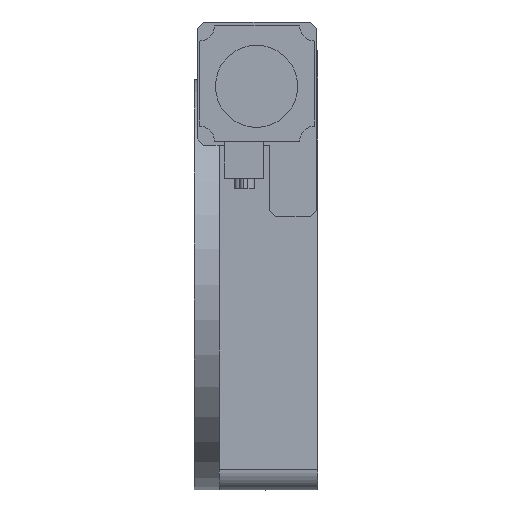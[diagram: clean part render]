
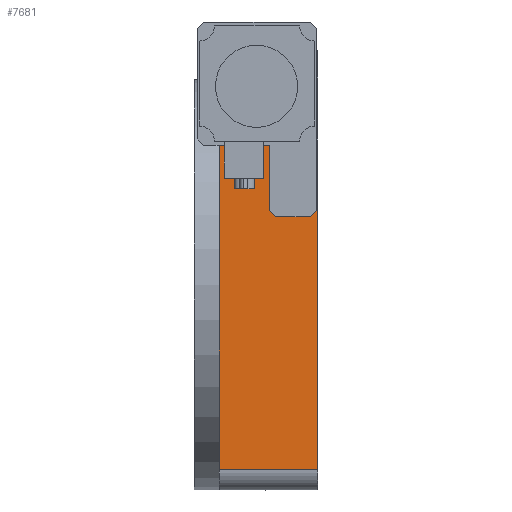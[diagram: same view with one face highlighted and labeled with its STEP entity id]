
A CAD part, left-side view. The second image highlights one B-rep face of the part: STEP entity #7681.
In plain terms, the highlighted planar face has unit normal (-1, 0, 0).
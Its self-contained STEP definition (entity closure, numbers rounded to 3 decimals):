
#114 = EDGE_LOOP ( 'NONE', ( #7237, #7082, #13904, #5619, #4370, #6498, #12378, #8327, #8439, #3772, #5070, #3367, #9591, #11312, #3284 ) ) ;
#169 = LINE ( 'NONE', #3863, #13279 ) ;
#325 = CARTESIAN_POINT ( 'NONE',  ( -100., 23.5, 36. ) ) ;
#559 = DIRECTION ( 'NONE',  ( 0., 0., 1. ) ) ;
#672 = VECTOR ( 'NONE', #3605, 1000. ) ;
#743 = VECTOR ( 'NONE', #14615, 1000. ) ;
#806 = DIRECTION ( 'NONE',  ( 0., 0., -1. ) ) ;
#1129 = VECTOR ( 'NONE', #1602, 1000. ) ;
#1307 = CARTESIAN_POINT ( 'NONE',  ( -100., 48., 68. ) ) ;
#1470 = VECTOR ( 'NONE', #9089, 1000. ) ;
#1560 = CARTESIAN_POINT ( 'NONE',  ( -100., 0., 70. ) ) ;
#1567 = VERTEX_POINT ( 'NONE', #9274 ) ;
#1602 = DIRECTION ( 'NONE',  ( 0., 0., 1. ) ) ;
#1667 = CARTESIAN_POINT ( 'NONE',  ( -100., 3.5, 33. ) ) ;
#1717 = EDGE_CURVE ( 'NONE', #6581, #9800, #9651, .T. ) ;
#1806 = LINE ( 'NONE', #10946, #3146 ) ;
#1825 = EDGE_CURVE ( 'NONE', #9800, #5214, #6987, .T. ) ;
#2266 = DIRECTION ( 'NONE',  ( 0., 0., -1. ) ) ;
#2365 = DIRECTION ( 'NONE',  ( 0., 1., 0. ) ) ;
#2402 = LINE ( 'NONE', #15035, #7326 ) ;
#2599 = VERTEX_POINT ( 'NONE', #3002 ) ;
#3002 = CARTESIAN_POINT ( 'NONE',  ( -100., 0.5, 70. ) ) ;
#3020 = VERTEX_POINT ( 'NONE', #9958 ) ;
#3146 = VECTOR ( 'NONE', #4742, 1000. ) ;
#3175 = CARTESIAN_POINT ( 'NONE',  ( -100., 48., -90. ) ) ;
#3234 = VERTEX_POINT ( 'NONE', #1560 ) ;
#3284 = ORIENTED_EDGE ( 'NONE', *, *, #11812, .F. ) ;
#3367 = ORIENTED_EDGE ( 'NONE', *, *, #6088, .F. ) ;
#3463 = EDGE_CURVE ( 'NONE', #13811, #1567, #1806, .T. ) ;
#3557 = VERTEX_POINT ( 'NONE', #11104 ) ;
#3605 = DIRECTION ( 'NONE',  ( 0., 0., 1. ) ) ;
#3692 = DIRECTION ( 'NONE',  ( 0., -1., 0. ) ) ;
#3772 = ORIENTED_EDGE ( 'NONE', *, *, #4209, .F. ) ;
#3863 = CARTESIAN_POINT ( 'NONE',  ( -100., 48., 68. ) ) ;
#3982 = LINE ( 'NONE', #6130, #743 ) ;
#4209 = EDGE_CURVE ( 'NONE', #1567, #9083, #12791, .T. ) ;
#4370 = ORIENTED_EDGE ( 'NONE', *, *, #1825, .F. ) ;
#4409 = CARTESIAN_POINT ( 'NONE',  ( -100., 48., 33. ) ) ;
#4452 = DIRECTION ( 'NONE',  ( 0., -0.707, 0.707 ) ) ;
#4564 = VERTEX_POINT ( 'NONE', #15638 ) ;
#4638 = CARTESIAN_POINT ( 'NONE',  ( -100., 48., -70. ) ) ;
#4742 = DIRECTION ( 'NONE',  ( 0., -1., 0. ) ) ;
#4769 = CARTESIAN_POINT ( 'NONE',  ( -100., 48., -90. ) ) ;
#4836 = CARTESIAN_POINT ( 'NONE',  ( -100., 48., 70. ) ) ;
#5011 = LINE ( 'NONE', #4836, #15260 ) ;
#5070 = ORIENTED_EDGE ( 'NONE', *, *, #3463, .F. ) ;
#5100 = CARTESIAN_POINT ( 'NONE',  ( -100., 48., 0. ) ) ;
#5214 = VERTEX_POINT ( 'NONE', #8023 ) ;
#5357 = VECTOR ( 'NONE', #3692, 1000. ) ;
#5401 = CARTESIAN_POINT ( 'NONE',  ( -100., 45.5, 51.8 ) ) ;
#5417 = CARTESIAN_POINT ( 'NONE',  ( -100., 26.5, -70. ) ) ;
#5455 = EDGE_CURVE ( 'NONE', #5214, #2599, #7616, .T. ) ;
#5548 = VECTOR ( 'NONE', #559, 1000. ) ;
#5575 = LINE ( 'NONE', #1307, #5357 ) ;
#5619 = ORIENTED_EDGE ( 'NONE', *, *, #5455, .F. ) ;
#5641 = VERTEX_POINT ( 'NONE', #325 ) ;
#5698 = EDGE_CURVE ( 'NONE', #9083, #15664, #169, .T. ) ;
#5707 = DIRECTION ( 'NONE',  ( 1., 0., 0. ) ) ;
#6088 = EDGE_CURVE ( 'NONE', #3020, #13811, #3982, .T. ) ;
#6130 = CARTESIAN_POINT ( 'NONE',  ( -100., 45.5, -70. ) ) ;
#6213 = VERTEX_POINT ( 'NONE', #5100 ) ;
#6498 = ORIENTED_EDGE ( 'NONE', *, *, #1717, .F. ) ;
#6581 = VERTEX_POINT ( 'NONE', #11716 ) ;
#6987 = LINE ( 'NONE', #7002, #7943 ) ;
#7002 = CARTESIAN_POINT ( 'NONE',  ( -100., 3.5, 33. ) ) ;
#7082 = ORIENTED_EDGE ( 'NONE', *, *, #15767, .T. ) ;
#7237 = ORIENTED_EDGE ( 'NONE', *, *, #11868, .F. ) ;
#7326 = VECTOR ( 'NONE', #8956, 1000. ) ;
#7328 = CARTESIAN_POINT ( 'NONE',  ( -100., 23.5, 68. ) ) ;
#7616 = LINE ( 'NONE', #8501, #10472 ) ;
#7681 = ADVANCED_FACE ( 'NONE', ( #10225 ), #14338, .F. ) ;
#7943 = VECTOR ( 'NONE', #4452, 1000. ) ;
#8023 = CARTESIAN_POINT ( 'NONE',  ( -100., 0.5, 36. ) ) ;
#8327 = ORIENTED_EDGE ( 'NONE', *, *, #15039, .F. ) ;
#8439 = ORIENTED_EDGE ( 'NONE', *, *, #5698, .F. ) ;
#8501 = CARTESIAN_POINT ( 'NONE',  ( -100., 0.5, -70. ) ) ;
#8502 = LINE ( 'NONE', #15630, #672 ) ;
#8504 = CARTESIAN_POINT ( 'NONE',  ( -100., 26.5, 68. ) ) ;
#8765 = EDGE_CURVE ( 'NONE', #5641, #6581, #2402, .T. ) ;
#8956 = DIRECTION ( 'NONE',  ( 0., -0.707, -0.707 ) ) ;
#9083 = VERTEX_POINT ( 'NONE', #8504 ) ;
#9089 = DIRECTION ( 'NONE',  ( 0., -1., 0. ) ) ;
#9274 = CARTESIAN_POINT ( 'NONE',  ( -100., 26.5, 51.8 ) ) ;
#9539 = LINE ( 'NONE', #9943, #5548 ) ;
#9591 = ORIENTED_EDGE ( 'NONE', *, *, #14787, .F. ) ;
#9651 = LINE ( 'NONE', #4409, #1470 ) ;
#9800 = VERTEX_POINT ( 'NONE', #1667 ) ;
#9943 = CARTESIAN_POINT ( 'NONE',  ( -100., 0., 0. ) ) ;
#9958 = CARTESIAN_POINT ( 'NONE',  ( -100., 45.5, 68. ) ) ;
#10225 = FACE_OUTER_BOUND ( 'NONE', #114, .T. ) ;
#10472 = VECTOR ( 'NONE', #12151, 1000. ) ;
#10518 = AXIS2_PLACEMENT_3D ( 'NONE', #4638, #5707, #2266 ) ;
#10946 = CARTESIAN_POINT ( 'NONE',  ( -100., 48., 51.8 ) ) ;
#11104 = CARTESIAN_POINT ( 'NONE',  ( -100., 48., 68. ) ) ;
#11312 = ORIENTED_EDGE ( 'NONE', *, *, #12995, .F. ) ;
#11716 = CARTESIAN_POINT ( 'NONE',  ( -100., 20.5, 33. ) ) ;
#11812 = EDGE_CURVE ( 'NONE', #15062, #6213, #8502, .T. ) ;
#11868 = EDGE_CURVE ( 'NONE', #4564, #15062, #15500, .T. ) ;
#12151 = DIRECTION ( 'NONE',  ( 0., 0., 1. ) ) ;
#12156 = LINE ( 'NONE', #12683, #1129 ) ;
#12200 = LINE ( 'NONE', #12954, #15038 ) ;
#12378 = ORIENTED_EDGE ( 'NONE', *, *, #8765, .F. ) ;
#12683 = CARTESIAN_POINT ( 'NONE',  ( -100., 48., -70. ) ) ;
#12791 = LINE ( 'NONE', #5417, #13162 ) ;
#12954 = CARTESIAN_POINT ( 'NONE',  ( -100., 23.5, -70. ) ) ;
#12995 = EDGE_CURVE ( 'NONE', #6213, #3557, #12156, .T. ) ;
#13162 = VECTOR ( 'NONE', #15120, 1000. ) ;
#13279 = VECTOR ( 'NONE', #15206, 1000. ) ;
#13811 = VERTEX_POINT ( 'NONE', #5401 ) ;
#13904 = ORIENTED_EDGE ( 'NONE', *, *, #14232, .T. ) ;
#14232 = EDGE_CURVE ( 'NONE', #3234, #2599, #5011, .T. ) ;
#14338 = PLANE ( 'NONE',  #10518 ) ;
#14471 = DIRECTION ( 'NONE',  ( 0., 1., 0. ) ) ;
#14615 = DIRECTION ( 'NONE',  ( 0., 0., -1. ) ) ;
#14787 = EDGE_CURVE ( 'NONE', #3557, #3020, #5575, .T. ) ;
#14925 = VECTOR ( 'NONE', #14471, 1000. ) ;
#15035 = CARTESIAN_POINT ( 'NONE',  ( -100., 23.5, 36. ) ) ;
#15038 = VECTOR ( 'NONE', #806, 1000. ) ;
#15039 = EDGE_CURVE ( 'NONE', #15664, #5641, #12200, .T. ) ;
#15062 = VERTEX_POINT ( 'NONE', #3175 ) ;
#15120 = DIRECTION ( 'NONE',  ( 0., 0., 1. ) ) ;
#15206 = DIRECTION ( 'NONE',  ( 0., -1., 0. ) ) ;
#15260 = VECTOR ( 'NONE', #2365, 1000. ) ;
#15500 = LINE ( 'NONE', #4769, #14925 ) ;
#15630 = CARTESIAN_POINT ( 'NONE',  ( -100., 48., -70. ) ) ;
#15638 = CARTESIAN_POINT ( 'NONE',  ( -100., 0., -90. ) ) ;
#15664 = VERTEX_POINT ( 'NONE', #7328 ) ;
#15767 = EDGE_CURVE ( 'NONE', #4564, #3234, #9539, .T. ) ;
